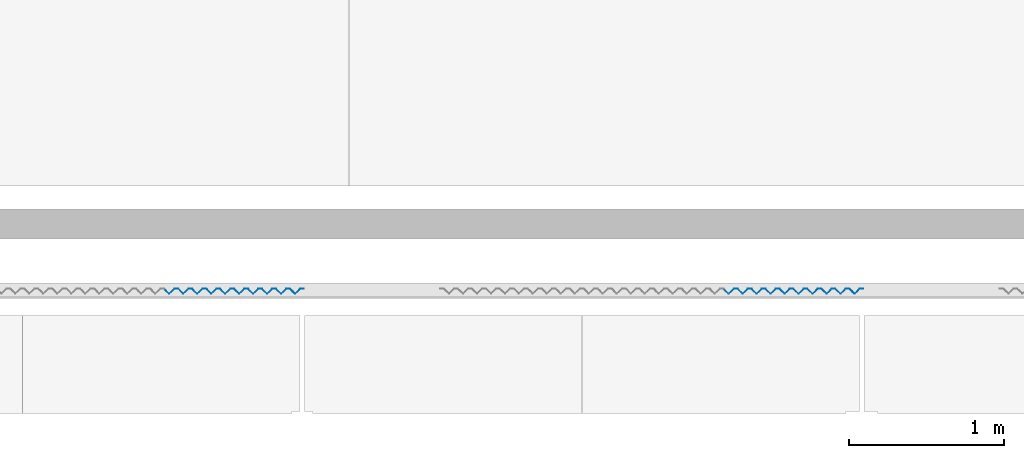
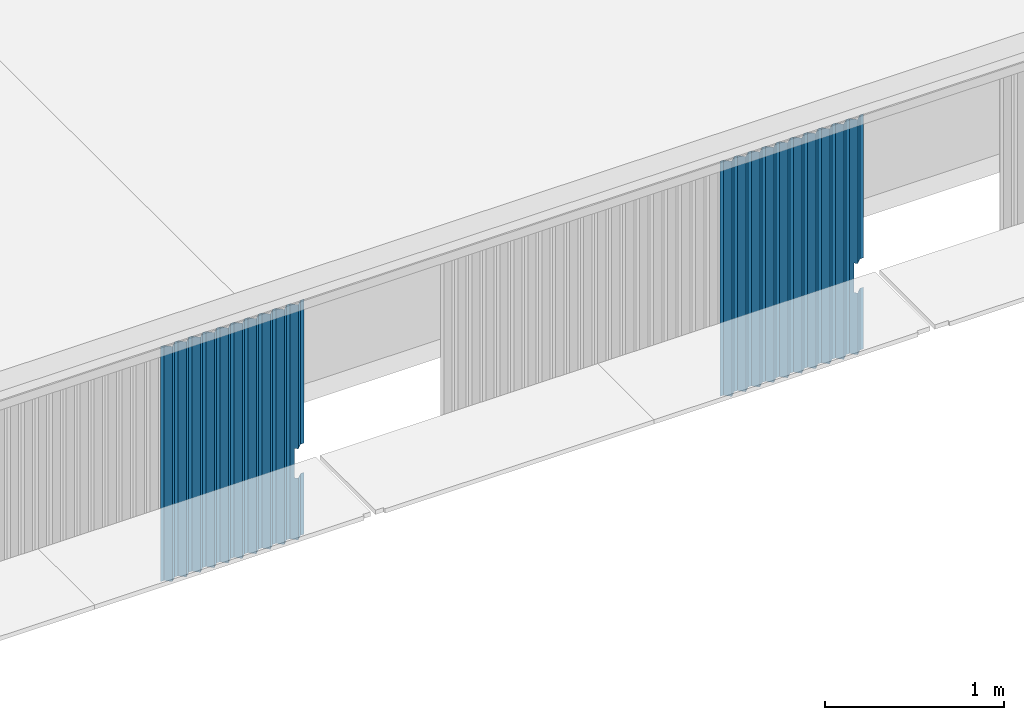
# One storey, part 19 of 37: 2 walls.
"""IFC4X3_ADD2 building model written with IfcOpenShell, lengths in millimetres."""

import ifcopenshell
import ifcopenshell.guid

model = None  # the IFC model being written
_history = None  # IfcOwnerHistory: only IFC2X3 demands one
_inside = {}  # id of a spatial element -> (the spatial element, [elements in it])
_under = {}  # id of a project, library or spatial element -> (it, [spatial elements below it])
_declared = {}  # id of a project -> (the project, [libraries it declares])
_typed = {}  # id of a type object -> (the type object, [elements of that type])
_made_of = {}  # id of a material, layer set ... -> (it, [elements and type objects made of it])


def new_model(schema):
    """Start an empty IFC model of exactly this schema.

    Asked for "IFC4X3", IfcOpenShell would pick the latest addendum, in which some entities
    have other attributes; the version numbers below select the first issue.
    IFC2X3 requires an IfcOwnerHistory on every rooted entity: one is made here for all.
    """
    global model, _history
    if schema == "IFC4X3":
        model = ifcopenshell.file(schema_version=(4, 3, 0, 0))
    else:
        model = ifcopenshell.file(schema=schema)
    _inside.clear()
    _under.clear()
    _declared.clear()
    _typed.clear()
    _made_of.clear()
    _history = None
    if model.schema == "IFC2X3":
        org = make("IfcOrganization", Name="unknown")
        user = make(
            "IfcPersonAndOrganization",
            ThePerson=make("IfcPerson", FamilyName="unknown"),
            TheOrganization=org,
        )
        app = make(
            "IfcApplication",
            ApplicationDeveloper=org,
            Version="unknown",
            ApplicationFullName="unknown",
            ApplicationIdentifier="unknown",
        )
        _history = make(
            "IfcOwnerHistory",
            OwningUser=user,
            OwningApplication=app,
            ChangeAction="ADDED",
            CreationDate=0,
        )
    return model


def make(cls, **values):
    """One entity of the class cls with the attributes given. An attribute that is None is left unset."""
    return model.create_entity(
        cls, **{name: value for name, value in values.items() if value is not None}
    )


def rooted(cls, **values):
    """An entity with a GlobalId (a new one), such as an element, a storey or a relation."""
    return make(cls, GlobalId=ifcopenshell.guid.new(), OwnerHistory=_history, **values)


def si_unit(unit_type, name, prefix=None):
    """IfcSIUnit, for example si_unit("LENGTHUNIT", "METRE", prefix="MILLI")."""
    return make("IfcSIUnit", UnitType=unit_type, Prefix=prefix, Name=name)


def assignment(units):
    """IfcUnitAssignment: the units of a project."""
    return None if units is None else make("IfcUnitAssignment", Units=units)


def point(xyz):
    """IfcCartesianPoint."""
    return None if xyz is None else make("IfcCartesianPoint", Coordinates=xyz)


def direction(xyz):
    """IfcDirection."""
    return None if xyz is None else make("IfcDirection", DirectionRatios=xyz)


def frame(location, z_axis=None, x_axis=None):
    """IfcAxis2Placement3D, a coordinate frame: its origin and axes. An axis left out is left unset."""
    return make(
        "IfcAxis2Placement3D",
        Location=point(location),
        Axis=direction(z_axis),
        RefDirection=direction(x_axis),
    )


def origin_with_axes():
    """The frame at (0, 0, 0) with the z axis (0, 0, 1) and the x axis (1, 0, 0) written out."""
    return frame((0.0, 0.0, 0.0), z_axis=(0.0, 0.0, 1.0), x_axis=(1.0, 0.0, 0.0))


def place(relative_to, where):
    """IfcLocalPlacement: puts the frame where relative to a parent placement (None: the world)."""
    return make(
        "IfcLocalPlacement", PlacementRelTo=relative_to, RelativePlacement=where
    )


def context(
    kind, dimensions, precision=None, world=None, true_north=None, identifier=None
):
    """IfcGeometricRepresentationContext, for example the 3D "Model" context."""
    return make(
        "IfcGeometricRepresentationContext",
        ContextIdentifier=identifier,
        ContextType=kind,
        CoordinateSpaceDimension=dimensions,
        Precision=precision,
        WorldCoordinateSystem=world,
        TrueNorth=true_north,
    )


def subcontext(parent, identifier, kind, view, scale=None):
    """IfcGeometricRepresentationSubContext, for example "Body" below "Model"."""
    return make(
        "IfcGeometricRepresentationSubContext",
        ContextIdentifier=identifier,
        ContextType=kind,
        ParentContext=parent,
        TargetScale=scale,
        TargetView=view,
    )


def project(units=None, contexts=None):
    """IfcProject with its units and contexts."""
    return rooted(
        "IfcProject",
        Name="project",
        RepresentationContexts=contexts,
        UnitsInContext=assignment(units),
    )


def spatial(cls, under=None, at=None, **own):
    """A site, building, storey or space (cls), placed at a placement, below another one or the project."""
    s = rooted(cls, ObjectPlacement=at, **own)
    if under is not None:
        _under.setdefault(under.id(), (under, []))[1].append(s)
    return s


def point_list(points):
    """IfcCartesianPointList2D or 3D."""
    cls = (
        "IfcCartesianPointList2D" if len(points[0]) == 2 else "IfcCartesianPointList3D"
    )
    return make(cls, CoordList=points)


def polygons(points, faces, closed=None, point_numbers=None):
    """IfcPolygonalFaceSet: a face is its outer loop, then its inner loops; points numbered from 1."""
    made = []
    for loops in faces:
        if len(loops) == 1:
            made.append(make("IfcIndexedPolygonalFace", CoordIndex=loops[0]))
        else:
            made.append(
                make(
                    "IfcIndexedPolygonalFaceWithVoids",
                    CoordIndex=loops[0],
                    InnerCoordIndices=loops[1:],
                )
            )
    return make(
        "IfcPolygonalFaceSet",
        Coordinates=point_list(points),
        Closed=closed,
        Faces=made,
        PnIndex=point_numbers,
    )


def shape(context_of_items, identifier, shape_type, items):
    """IfcShapeRepresentation: the items that make up one representation, for example the "Body"."""
    return make(
        "IfcShapeRepresentation",
        ContextOfItems=context_of_items,
        RepresentationIdentifier=identifier,
        RepresentationType=shape_type,
        Items=items,
    )


def made_of(thing, what):
    """Note that an element or type object is made of a material, layer set ...; save() writes the relation."""
    if what is not None:
        _made_of.setdefault(what.id(), (what, []))[1].append(thing)
    return thing


def element(
    cls,
    number,
    at=None,
    inside=None,
    cuts=None,
    type_object=None,
    material=None,
    context=None,
    identifier="Body",
    shape_type=None,
    held_by="IfcProductDefinitionShape",
    body=None,
    shapes=None,
    **own,
):
    """One element of the class cls, such as IfcWall. Its Tag is "e" and its number.

    at: its placement. inside: the storey or other place that contains it. cuts: it is an
    opening in that element (IfcRelVoidsElement). A single representation is given by context,
    identifier, shape_type and body (its items); several are given by shapes. held_by: the class
    of the entity that holds the representations. save() writes the other relations.
    """
    e = rooted(cls, Tag="e%d" % number, ObjectPlacement=at, **own)
    if body is not None:
        shapes = [shape(context, identifier, shape_type, body)]
    if shapes is not None:
        e.Representation = make(held_by, Representations=shapes)
    if inside is not None:
        _inside.setdefault(inside.id(), (inside, []))[1].append(e)
    if cuts is not None:
        rooted(
            "IfcRelVoidsElement", RelatingBuildingElement=cuts, RelatedOpeningElement=e
        )
    if type_object is not None:
        _typed.setdefault(type_object.id(), (type_object, []))[1].append(e)
    return made_of(e, material)


def aggregate(whole, parts):
    """IfcRelAggregates: a whole, such as a stair, and the parts it consists of."""
    return rooted("IfcRelAggregates", RelatingObject=whole, RelatedObjects=parts)


def save(model, path):
    """Write the relations noted so far, then the file.

    IfcRelAggregates (storeys below a building ...), IfcRelContainedInSpatialStructure (elements
    in a storey), IfcRelDefinesByType, IfcRelAssociatesMaterial and IfcRelDeclares: one each for
    every whole, place, type object, material and project.
    """
    for whole, parts in _under.values():
        aggregate(whole, parts)
    for where, things in _inside.values():
        rooted(
            "IfcRelContainedInSpatialStructure",
            RelatedElements=things,
            RelatingStructure=where,
        )
    for kind, things in _typed.values():
        rooted("IfcRelDefinesByType", RelatedObjects=things, RelatingType=kind)
    for what, things in _made_of.values():
        rooted("IfcRelAssociatesMaterial", RelatedObjects=things, RelatingMaterial=what)
    for by, libraries in _declared.values():
        rooted("IfcRelDeclares", RelatingContext=by, RelatedDefinitions=libraries)
    model.write(path)


model = new_model("IFC4X3_ADD2")

# Units and contexts
model_context = context("Model", 3, precision=1e-05, world=origin_with_axes(), true_north=direction((0.0, 1.0)))
body_context = subcontext(model_context, "Body", "Model", "MODEL_VIEW")
ifc_project = project(units=[si_unit("LENGTHUNIT", "METRE", prefix="MILLI"), si_unit("AREAUNIT", "SQUARE_METRE"), si_unit("VOLUMEUNIT", "CUBIC_METRE"), si_unit("PLANEANGLEUNIT", "RADIAN"), si_unit("TIMEUNIT", "SECOND"), si_unit("MASSUNIT", "GRAM")], contexts=[model_context])

# Site, building, storey
site_placement = place(None, origin_with_axes())
site = spatial("IfcSite", under=ifc_project, at=site_placement, Name="Site", CompositionType="ELEMENT")
building_placement = place(site_placement, origin_with_axes())
building = spatial("IfcBuilding", under=site, at=building_placement, Name="IFC Building Story")
storey_placement = place(building_placement, frame((0.0, 0.0, 14400.0), z_axis=(0.0, 0.0, 1.0), x_axis=(1.0, 0.0, 0.0)))
storey = spatial("IfcBuildingStorey", under=building, at=storey_placement, Name="040", Elevation=14400.0)

# Walls
wall_1_placement = place(storey_placement, frame((0.0, 0.0, -14400.0), z_axis=(0.0, 0.0, 1.0), x_axis=(1.0, 0.0, 0.0)))
element("IfcWall", 1, at=wall_1_placement, inside=storey, Name="BB_07.10_Gevelbekleding_PuntProfiel, 900 mm, console rechts_GMO:900 x 1600 mm", ObjectType="BB_07.10_Gevelbekleding_PuntProfiel, 900 mm, console rechts_GMO:900 x 1600 mm", PredefinedType="NOTDEFINED", context=body_context, shape_type="Tessellation", body=[
    polygons([(-36360.00000000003, -434.9999999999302, 14060.0), (-36360.00000000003, -433.5857864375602, 14060.0), (-36344.99999999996, -448.585786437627, 14060.0), (-36311.41421356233, -414.9999999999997, 14060.0), (-36288.58578643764, -414.9999999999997, 14060.0), (-36289.00000000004, -415.9999999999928, 14060.0), (-36310.99999999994, -415.9999999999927, 14060.0), (-36344.99999999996, -449.9999999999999, 14060.0), (-36360.00000000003, -434.9999999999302, 13860.0), (-36360.00000000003, -433.5857864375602, 13860.0), (-36344.99999999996, -449.9999999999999, 13860.0), (-36310.99999999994, -415.9999999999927, 13860.0), (-36289.00000000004, -415.9999999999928, 13860.0), (-36288.58578643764, -414.9999999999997, 13860.0), (-36311.41421356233, -414.9999999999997, 13860.0), (-36344.99999999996, -448.585786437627, 13860.0), (-37121.00000000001, -415.9999999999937, 15040.0), (-37099.00000000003, -415.9999999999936, 15040.0), (-37065.00000000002, -449.9999999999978, 15040.0), (-37031.00000000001, -415.9999999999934, 15040.0), (-37009.00000000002, -415.9999999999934, 15040.0), (-36975.00000000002, -449.9999999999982, 15040.0), (-36941.00000000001, -415.9999999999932, 15040.0), (-36919.00000000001, -415.9999999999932, 15040.0), (-36885.00000000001, -449.9999999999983, 15040.0), (-36850.99999999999, -415.9999999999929, 15040.0), (-36829.0, -415.9999999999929, 15040.0), (-36795.0, -449.9999999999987, 15040.0), (-36760.99999999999, -415.9999999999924, 15040.0), (-36738.99999999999, -415.9999999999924, 15040.0), (-36704.99999999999, -449.9999999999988, 15040.0), (-36670.99999999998, -415.9999999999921, 15040.0), (-36648.99999999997, -415.9999999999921, 15040.0), (-36614.99999999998, -449.9999999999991, 15040.0), (-36580.99999999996, -415.9999999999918, 15040.0), (-36558.99999999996, -415.9999999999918, 15040.0), (-36524.99999999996, -449.9999999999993, 15040.0), (-36490.99999999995, -415.9999999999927, 15040.0), (-36468.99999999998, -415.9999999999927, 15040.0), (-36434.99999999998, -449.9999999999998, 15040.0), (-36400.99999999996, -415.9999999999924, 15040.0), (-36378.99999999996, -415.9999999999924, 15040.0), (-36344.99999999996, -449.9999999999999, 15040.0), (-36310.99999999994, -415.9999999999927, 15040.0), (-36289.00000000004, -415.9999999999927, 15040.0), (-36288.58578643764, -414.9999999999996, 15040.0), (-36311.41421356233, -414.9999999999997, 15040.0), (-36344.99999999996, -448.585786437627, 15040.0), (-36378.58578643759, -414.9999999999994, 15040.0), (-36401.41421356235, -414.9999999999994, 15040.0), (-36434.99999999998, -448.5857864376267, 15040.0), (-36468.58578643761, -414.9999999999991, 15040.0), (-36491.41421356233, -414.9999999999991, 15040.0), (-36524.99999999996, -448.5857864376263, 15040.0), (-36558.58578643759, -414.9999999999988, 15040.0), (-36581.41421356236, -414.9999999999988, 15040.0), (-36614.99999999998, -448.5857864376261, 15040.0), (-36648.5857864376, -414.9999999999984, 15040.0), (-36671.41421356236, -414.9999999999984, 15040.0), (-36704.99999999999, -448.5857864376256, 15040.0), (-36738.58578643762, -414.9999999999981, 15040.0), (-36761.41421356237, -414.9999999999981, 15040.0), (-36795.0, -448.5857864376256, 15040.0), (-36828.58578643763, -414.999999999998, 15040.0), (-36851.41421356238, -414.999999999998, 15040.0), (-36885.00000000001, -448.5857864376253, 15040.0), (-36918.58578643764, -414.9999999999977, 15040.0), (-36941.41421356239, -414.9999999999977, 15040.0), (-36975.00000000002, -448.5857864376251, 15040.0), (-37008.58578643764, -414.9999999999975, 15040.0), (-37031.4142135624, -414.9999999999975, 15040.0), (-37065.00000000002, -448.5857864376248, 15040.0), (-37098.58578643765, -414.9999999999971, 15040.0), (-37121.4142135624, -414.9999999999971, 15040.0), (-37155.00000000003, -448.5857864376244, 15040.0), (-37188.58578643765, -414.9999999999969, 15040.0), (-37211.4142135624, -414.9999999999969, 15040.0), (-37211.00000000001, -415.9999999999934, 15040.0), (-37189.00000000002, -415.9999999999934, 15040.0), (-37155.00000000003, -449.9999999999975, 15040.0), (-37121.00000000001, -415.9999999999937, 13440.0), (-37155.00000000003, -449.9999999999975, 13440.0), (-37189.00000000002, -415.9999999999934, 13440.0), (-37211.00000000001, -415.9999999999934, 13440.0), (-37211.4142135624, -414.9999999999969, 13440.0), (-37188.58578643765, -414.9999999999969, 13440.0), (-37155.00000000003, -448.5857864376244, 13440.0), (-37121.4142135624, -414.9999999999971, 13440.0), (-37098.58578643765, -414.9999999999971, 13440.0), (-37065.00000000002, -448.5857864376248, 13440.0), (-37031.4142135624, -414.9999999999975, 13440.0), (-37008.58578643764, -414.9999999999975, 13440.0), (-36975.00000000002, -448.5857864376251, 13440.0), (-36941.41421356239, -414.9999999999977, 13440.0), (-36918.58578643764, -414.9999999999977, 13440.0), (-36885.00000000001, -448.5857864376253, 13440.0), (-36851.41421356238, -414.999999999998, 13440.0), (-36828.58578643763, -414.999999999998, 13440.0), (-36795.0, -448.5857864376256, 13440.0), (-36761.41421356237, -414.9999999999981, 13440.0), (-36738.58578643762, -414.9999999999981, 13440.0), (-36704.99999999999, -448.5857864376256, 13440.0), (-36671.41421356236, -414.9999999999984, 13440.0), (-36648.5857864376, -414.9999999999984, 13440.0), (-36614.99999999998, -448.5857864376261, 13440.0), (-36581.41421356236, -414.9999999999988, 13440.0), (-36558.58578643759, -414.9999999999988, 13440.0), (-36524.99999999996, -448.5857864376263, 13440.0), (-36491.41421356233, -414.9999999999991, 13440.0), (-36468.58578643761, -414.9999999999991, 13440.0), (-36434.99999999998, -448.5857864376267, 13440.0), (-36401.41421356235, -414.9999999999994, 13440.0), (-36378.58578643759, -414.9999999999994, 13440.0), (-36344.99999999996, -448.585786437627, 13440.0), (-36311.41421356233, -414.9999999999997, 13440.0), (-36288.58578643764, -414.9999999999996, 13440.0), (-36289.00000000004, -415.9999999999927, 13440.0), (-36310.99999999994, -415.9999999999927, 13440.0), (-36344.99999999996, -449.9999999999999, 13440.0), (-36378.99999999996, -415.9999999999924, 13440.0), (-36400.99999999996, -415.9999999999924, 13440.0), (-36434.99999999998, -449.9999999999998, 13440.0), (-36468.99999999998, -415.9999999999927, 13440.0), (-36490.99999999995, -415.9999999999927, 13440.0), (-36524.99999999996, -449.9999999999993, 13440.0), (-36558.99999999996, -415.9999999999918, 13440.0), (-36580.99999999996, -415.9999999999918, 13440.0), (-36614.99999999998, -449.9999999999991, 13440.0), (-36648.99999999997, -415.9999999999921, 13440.0), (-36670.99999999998, -415.9999999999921, 13440.0), (-36704.99999999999, -449.9999999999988, 13440.0), (-36738.99999999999, -415.9999999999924, 13440.0), (-36760.99999999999, -415.9999999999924, 13440.0), (-36795.0, -449.9999999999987, 13440.0), (-36829.0, -415.9999999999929, 13440.0), (-36850.99999999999, -415.9999999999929, 13440.0), (-36885.00000000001, -449.9999999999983, 13440.0), (-36919.00000000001, -415.9999999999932, 13440.0), (-36941.00000000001, -415.9999999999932, 13440.0), (-36975.00000000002, -449.9999999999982, 13440.0), (-37009.00000000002, -415.9999999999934, 13440.0), (-37031.00000000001, -415.9999999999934, 13440.0), (-37065.00000000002, -449.9999999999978, 13440.0), (-37099.00000000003, -415.9999999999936, 13440.0)], [[[7, 8, 3]], [[7, 3, 4]], [[4, 5, 6]], [[4, 6, 7]], [[8, 1, 2]], [[8, 2, 3]], [[2, 1, 9, 10]], [[12, 13, 14]], [[12, 14, 15]], [[16, 10, 9]], [[16, 9, 11]], [[11, 12, 15]], [[11, 15, 16]], [[44, 45, 46]], [[44, 46, 47]], [[48, 49, 42]], [[48, 42, 43]], [[43, 44, 47]], [[43, 47, 48]], [[49, 50, 41]], [[49, 41, 42]], [[51, 52, 39]], [[51, 39, 40]], [[40, 41, 50]], [[40, 50, 51]], [[52, 53, 38]], [[52, 38, 39]], [[54, 55, 36]], [[54, 36, 37]], [[37, 38, 53]], [[37, 53, 54]], [[55, 56, 35]], [[55, 35, 36]], [[57, 58, 33]], [[57, 33, 34]], [[34, 35, 56]], [[34, 56, 57]], [[58, 59, 32]], [[58, 32, 33]], [[60, 61, 30]], [[60, 30, 31]], [[31, 32, 59]], [[31, 59, 60]], [[61, 62, 29]], [[61, 29, 30]], [[63, 64, 27]], [[63, 27, 28]], [[28, 29, 62]], [[28, 62, 63]], [[64, 65, 26]], [[64, 26, 27]], [[66, 67, 24]], [[66, 24, 25]], [[25, 26, 65]], [[25, 65, 66]], [[67, 68, 23]], [[67, 23, 24]], [[69, 70, 21]], [[69, 21, 22]], [[22, 23, 68]], [[22, 68, 69]], [[70, 71, 20]], [[70, 20, 21]], [[72, 73, 18]], [[72, 18, 19]], [[19, 20, 71]], [[19, 71, 72]], [[73, 74, 17]], [[73, 17, 18]], [[79, 80, 75]], [[79, 75, 76]], [[76, 77, 78]], [[76, 78, 79]], [[80, 17, 74]], [[80, 74, 75]], [[83, 84, 85]], [[83, 85, 86]], [[87, 88, 81]], [[87, 81, 82]], [[82, 83, 86]], [[82, 86, 87]], [[118, 119, 114]], [[118, 114, 115]], [[115, 116, 117]], [[115, 117, 118]], [[121, 122, 111]], [[121, 111, 112]], [[112, 113, 120]], [[112, 120, 121]], [[113, 114, 119]], [[113, 119, 120]], [[124, 125, 108]], [[124, 108, 109]], [[109, 110, 123]], [[109, 123, 124]], [[110, 111, 122]], [[110, 122, 123]], [[127, 128, 105]], [[127, 105, 106]], [[106, 107, 126]], [[106, 126, 127]], [[107, 108, 125]], [[107, 125, 126]], [[130, 131, 102]], [[130, 102, 103]], [[103, 104, 129]], [[103, 129, 130]], [[104, 105, 128]], [[104, 128, 129]], [[133, 134, 99]], [[133, 99, 100]], [[100, 101, 132]], [[100, 132, 133]], [[101, 102, 131]], [[101, 131, 132]], [[136, 137, 96]], [[136, 96, 97]], [[97, 98, 135]], [[97, 135, 136]], [[98, 99, 134]], [[98, 134, 135]], [[139, 140, 93]], [[139, 93, 94]], [[94, 95, 138]], [[94, 138, 139]], [[95, 96, 137]], [[95, 137, 138]], [[142, 143, 90]], [[142, 90, 91]], [[91, 92, 141]], [[91, 141, 142]], [[92, 93, 140]], [[92, 140, 141]], [[144, 81, 88]], [[144, 88, 89]], [[89, 90, 143]], [[89, 143, 144]], [[18, 17, 81, 144]], [[19, 18, 144, 143]], [[20, 19, 143, 142]], [[21, 20, 142, 141]], [[22, 21, 141, 140]], [[23, 22, 140, 139]], [[24, 23, 139, 138]], [[25, 24, 138, 137]], [[26, 25, 137, 136]], [[27, 26, 136, 135]], [[28, 27, 135, 134]], [[29, 28, 134, 133]], [[30, 29, 133, 132]], [[31, 30, 132, 131]], [[32, 31, 131, 130]], [[33, 32, 130, 129]], [[34, 33, 129, 128]], [[35, 34, 128, 127]], [[36, 35, 127, 126]], [[37, 36, 126, 125]], [[38, 37, 125, 124]], [[54, 53, 109, 108]], [[55, 54, 108, 107]], [[56, 55, 107, 106]], [[57, 56, 106, 105]], [[58, 57, 105, 104]], [[59, 58, 104, 103]], [[60, 59, 103, 102]], [[61, 60, 102, 101]], [[62, 61, 101, 100]], [[63, 62, 100, 99]], [[64, 63, 99, 98]], [[65, 64, 98, 97]], [[66, 65, 97, 96]], [[67, 66, 96, 95]], [[68, 67, 95, 94]], [[69, 68, 94, 93]], [[70, 69, 93, 92]], [[71, 70, 92, 91]], [[72, 71, 91, 90]], [[73, 72, 90, 89]], [[74, 73, 89, 88]], [[80, 79, 83, 82]], [[17, 80, 82, 81]], [[39, 38, 124, 123]], [[40, 39, 123, 122]], [[41, 40, 122, 121]], [[42, 41, 121, 120]], [[1, 8, 43]], [[1, 43, 42]], [[42, 9, 1]], [[42, 120, 9]], [[120, 119, 11]], [[120, 11, 9]], [[44, 43, 8, 7]], [[45, 44, 7, 6]], [[47, 46, 5, 4]], [[48, 47, 4, 3]], [[10, 16, 114]], [[10, 114, 113]], [[113, 2, 10]], [[2, 113, 49]], [[49, 48, 2]], [[48, 3, 2]], [[50, 49, 113, 112]], [[51, 50, 112, 111]], [[52, 51, 111, 110]], [[53, 52, 110, 109]], [[75, 74, 88, 87]], [[76, 75, 87, 86]], [[46, 45, 6, 5]], [[77, 76, 86, 85]], [[78, 77, 85, 84]], [[79, 78, 84, 83]], [[117, 116, 14, 13]], [[115, 114, 16, 15]], [[116, 115, 15, 14]], [[118, 117, 13, 12]], [[119, 118, 12, 11]]]),
])
wall_2_placement = place(storey_placement, frame((0.0, 0.0, -14400.0), z_axis=(0.0, 0.0, 1.0), x_axis=(1.0, 0.0, 0.0)))
element("IfcWall", 2, at=wall_2_placement, inside=storey, Name="BB_07.10_Gevelbekleding_PuntProfiel, 900 mm, console rechts_GMO:900 x 1600 mm", ObjectType="BB_07.10_Gevelbekleding_PuntProfiel, 900 mm, console rechts_GMO:900 x 1600 mm", PredefinedType="NOTDEFINED", context=body_context, shape_type="Tessellation", body=[
    polygons([(-32760.00000000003, -434.9999999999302, 14060.0), (-32760.00000000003, -433.5857864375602, 14060.0), (-32744.99999999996, -448.585786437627, 14060.0), (-32711.41421356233, -414.9999999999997, 14060.0), (-32688.58578643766, -414.9999999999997, 14060.0), (-32689.00000000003, -415.9999999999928, 14060.0), (-32710.99999999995, -415.9999999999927, 14060.0), (-32744.99999999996, -449.9999999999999, 14060.0), (-32760.00000000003, -434.9999999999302, 13860.0), (-32760.00000000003, -433.5857864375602, 13860.0), (-32744.99999999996, -449.9999999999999, 13860.0), (-32710.99999999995, -415.9999999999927, 13860.0), (-32689.00000000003, -415.9999999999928, 13860.0), (-32688.58578643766, -414.9999999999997, 13860.0), (-32711.41421356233, -414.9999999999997, 13860.0), (-32744.99999999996, -448.585786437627, 13860.0), (-33521.00000000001, -415.9999999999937, 15040.0), (-33499.00000000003, -415.9999999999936, 15040.0), (-33465.00000000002, -449.9999999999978, 15040.0), (-33431.00000000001, -415.9999999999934, 15040.0), (-33409.00000000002, -415.9999999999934, 15040.0), (-33375.00000000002, -449.9999999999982, 15040.0), (-33341.00000000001, -415.9999999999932, 15040.0), (-33319.00000000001, -415.9999999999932, 15040.0), (-33285.00000000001, -449.9999999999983, 15040.0), (-33251.00000000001, -415.9999999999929, 15040.0), (-33229.0, -415.9999999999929, 15040.0), (-33195.0, -449.9999999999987, 15040.0), (-33160.99999999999, -415.9999999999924, 15040.0), (-33138.99999999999, -415.9999999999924, 15040.0), (-33104.99999999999, -449.9999999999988, 15040.0), (-33070.99999999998, -415.9999999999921, 15040.0), (-33048.99999999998, -415.9999999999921, 15040.0), (-33014.99999999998, -449.9999999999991, 15040.0), (-32980.99999999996, -415.9999999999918, 15040.0), (-32958.99999999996, -415.9999999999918, 15040.0), (-32924.99999999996, -449.9999999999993, 15040.0), (-32890.99999999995, -415.9999999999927, 15040.0), (-32868.99999999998, -415.9999999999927, 15040.0), (-32834.99999999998, -449.9999999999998, 15040.0), (-32800.99999999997, -415.9999999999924, 15040.0), (-32778.99999999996, -415.9999999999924, 15040.0), (-32744.99999999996, -449.9999999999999, 15040.0), (-32710.99999999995, -415.9999999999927, 15040.0), (-32689.00000000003, -415.9999999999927, 15040.0), (-32688.58578643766, -414.9999999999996, 15040.0), (-32711.41421356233, -414.9999999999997, 15040.0), (-32744.99999999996, -448.585786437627, 15040.0), (-32778.58578643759, -414.9999999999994, 15040.0), (-32801.41421356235, -414.9999999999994, 15040.0), (-32834.99999999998, -448.5857864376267, 15040.0), (-32868.58578643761, -414.9999999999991, 15040.0), (-32891.41421356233, -414.9999999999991, 15040.0), (-32924.99999999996, -448.5857864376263, 15040.0), (-32958.58578643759, -414.9999999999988, 15040.0), (-32981.41421356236, -414.9999999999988, 15040.0), (-33014.99999999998, -448.5857864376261, 15040.0), (-33048.58578643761, -414.9999999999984, 15040.0), (-33071.41421356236, -414.9999999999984, 15040.0), (-33104.99999999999, -448.5857864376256, 15040.0), (-33138.58578643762, -414.9999999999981, 15040.0), (-33161.41421356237, -414.9999999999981, 15040.0), (-33195.0, -448.5857864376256, 15040.0), (-33228.58578643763, -414.999999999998, 15040.0), (-33251.41421356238, -414.999999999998, 15040.0), (-33285.00000000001, -448.5857864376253, 15040.0), (-33318.58578643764, -414.9999999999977, 15040.0), (-33341.41421356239, -414.9999999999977, 15040.0), (-33375.00000000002, -448.5857864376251, 15040.0), (-33408.58578643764, -414.9999999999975, 15040.0), (-33431.4142135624, -414.9999999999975, 15040.0), (-33465.00000000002, -448.5857864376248, 15040.0), (-33498.58578643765, -414.9999999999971, 15040.0), (-33521.41421356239, -414.9999999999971, 15040.0), (-33555.00000000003, -448.5857864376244, 15040.0), (-33588.58578643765, -414.9999999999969, 15040.0), (-33611.4142135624, -414.9999999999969, 15040.0), (-33611.00000000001, -415.9999999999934, 15040.0), (-33589.00000000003, -415.9999999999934, 15040.0), (-33555.00000000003, -449.9999999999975, 15040.0), (-33521.00000000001, -415.9999999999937, 13440.0), (-33555.00000000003, -449.9999999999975, 13440.0), (-33589.00000000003, -415.9999999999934, 13440.0), (-33611.00000000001, -415.9999999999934, 13440.0), (-33611.4142135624, -414.9999999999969, 13440.0), (-33588.58578643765, -414.9999999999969, 13440.0), (-33555.00000000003, -448.5857864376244, 13440.0), (-33521.41421356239, -414.9999999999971, 13440.0), (-33498.58578643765, -414.9999999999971, 13440.0), (-33465.00000000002, -448.5857864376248, 13440.0), (-33431.4142135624, -414.9999999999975, 13440.0), (-33408.58578643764, -414.9999999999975, 13440.0), (-33375.00000000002, -448.5857864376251, 13440.0), (-33341.41421356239, -414.9999999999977, 13440.0), (-33318.58578643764, -414.9999999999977, 13440.0), (-33285.00000000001, -448.5857864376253, 13440.0), (-33251.41421356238, -414.999999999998, 13440.0), (-33228.58578643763, -414.999999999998, 13440.0), (-33195.0, -448.5857864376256, 13440.0), (-33161.41421356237, -414.9999999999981, 13440.0), (-33138.58578643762, -414.9999999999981, 13440.0), (-33104.99999999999, -448.5857864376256, 13440.0), (-33071.41421356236, -414.9999999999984, 13440.0), (-33048.58578643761, -414.9999999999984, 13440.0), (-33014.99999999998, -448.5857864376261, 13440.0), (-32981.41421356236, -414.9999999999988, 13440.0), (-32958.58578643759, -414.9999999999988, 13440.0), (-32924.99999999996, -448.5857864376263, 13440.0), (-32891.41421356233, -414.9999999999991, 13440.0), (-32868.58578643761, -414.9999999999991, 13440.0), (-32834.99999999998, -448.5857864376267, 13440.0), (-32801.41421356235, -414.9999999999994, 13440.0), (-32778.58578643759, -414.9999999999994, 13440.0), (-32744.99999999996, -448.585786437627, 13440.0), (-32711.41421356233, -414.9999999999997, 13440.0), (-32688.58578643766, -414.9999999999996, 13440.0), (-32689.00000000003, -415.9999999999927, 13440.0), (-32710.99999999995, -415.9999999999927, 13440.0), (-32744.99999999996, -449.9999999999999, 13440.0), (-32778.99999999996, -415.9999999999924, 13440.0), (-32800.99999999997, -415.9999999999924, 13440.0), (-32834.99999999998, -449.9999999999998, 13440.0), (-32868.99999999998, -415.9999999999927, 13440.0), (-32890.99999999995, -415.9999999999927, 13440.0), (-32924.99999999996, -449.9999999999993, 13440.0), (-32958.99999999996, -415.9999999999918, 13440.0), (-32980.99999999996, -415.9999999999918, 13440.0), (-33014.99999999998, -449.9999999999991, 13440.0), (-33048.99999999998, -415.9999999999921, 13440.0), (-33070.99999999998, -415.9999999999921, 13440.0), (-33104.99999999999, -449.9999999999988, 13440.0), (-33138.99999999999, -415.9999999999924, 13440.0), (-33160.99999999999, -415.9999999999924, 13440.0), (-33195.0, -449.9999999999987, 13440.0), (-33229.0, -415.9999999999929, 13440.0), (-33251.00000000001, -415.9999999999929, 13440.0), (-33285.00000000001, -449.9999999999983, 13440.0), (-33319.00000000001, -415.9999999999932, 13440.0), (-33341.00000000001, -415.9999999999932, 13440.0), (-33375.00000000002, -449.9999999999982, 13440.0), (-33409.00000000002, -415.9999999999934, 13440.0), (-33431.00000000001, -415.9999999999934, 13440.0), (-33465.00000000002, -449.9999999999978, 13440.0), (-33499.00000000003, -415.9999999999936, 13440.0)], [[[7, 8, 3]], [[7, 3, 4]], [[4, 5, 6]], [[4, 6, 7]], [[8, 1, 2]], [[8, 2, 3]], [[2, 1, 9, 10]], [[12, 13, 14]], [[12, 14, 15]], [[16, 10, 9]], [[16, 9, 11]], [[11, 12, 15]], [[11, 15, 16]], [[44, 45, 46]], [[44, 46, 47]], [[48, 49, 42]], [[48, 42, 43]], [[43, 44, 47]], [[43, 47, 48]], [[49, 50, 41]], [[49, 41, 42]], [[51, 52, 39]], [[51, 39, 40]], [[40, 41, 50]], [[40, 50, 51]], [[52, 53, 38]], [[52, 38, 39]], [[54, 55, 36]], [[54, 36, 37]], [[37, 38, 53]], [[37, 53, 54]], [[55, 56, 35]], [[55, 35, 36]], [[57, 58, 33]], [[57, 33, 34]], [[34, 35, 56]], [[34, 56, 57]], [[58, 59, 32]], [[58, 32, 33]], [[60, 61, 30]], [[60, 30, 31]], [[31, 32, 59]], [[31, 59, 60]], [[61, 62, 29]], [[61, 29, 30]], [[63, 64, 27]], [[63, 27, 28]], [[28, 29, 62]], [[28, 62, 63]], [[64, 65, 26]], [[64, 26, 27]], [[66, 67, 24]], [[66, 24, 25]], [[25, 26, 65]], [[25, 65, 66]], [[67, 68, 23]], [[67, 23, 24]], [[69, 70, 21]], [[69, 21, 22]], [[22, 23, 68]], [[22, 68, 69]], [[70, 71, 20]], [[70, 20, 21]], [[72, 73, 18]], [[72, 18, 19]], [[19, 20, 71]], [[19, 71, 72]], [[73, 74, 17]], [[73, 17, 18]], [[79, 80, 75]], [[79, 75, 76]], [[76, 77, 78]], [[76, 78, 79]], [[80, 17, 74]], [[80, 74, 75]], [[83, 84, 85]], [[83, 85, 86]], [[87, 88, 81]], [[87, 81, 82]], [[82, 83, 86]], [[82, 86, 87]], [[118, 119, 114]], [[118, 114, 115]], [[115, 116, 117]], [[115, 117, 118]], [[121, 122, 111]], [[121, 111, 112]], [[112, 113, 120]], [[112, 120, 121]], [[113, 114, 119]], [[113, 119, 120]], [[124, 125, 108]], [[124, 108, 109]], [[109, 110, 123]], [[109, 123, 124]], [[110, 111, 122]], [[110, 122, 123]], [[127, 128, 105]], [[127, 105, 106]], [[106, 107, 126]], [[106, 126, 127]], [[107, 108, 125]], [[107, 125, 126]], [[130, 131, 102]], [[130, 102, 103]], [[103, 104, 129]], [[103, 129, 130]], [[104, 105, 128]], [[104, 128, 129]], [[133, 134, 99]], [[133, 99, 100]], [[100, 101, 132]], [[100, 132, 133]], [[101, 102, 131]], [[101, 131, 132]], [[136, 137, 96]], [[136, 96, 97]], [[97, 98, 135]], [[97, 135, 136]], [[98, 99, 134]], [[98, 134, 135]], [[139, 140, 93]], [[139, 93, 94]], [[94, 95, 138]], [[94, 138, 139]], [[95, 96, 137]], [[95, 137, 138]], [[142, 143, 90]], [[142, 90, 91]], [[91, 92, 141]], [[91, 141, 142]], [[92, 93, 140]], [[92, 140, 141]], [[144, 81, 88]], [[144, 88, 89]], [[89, 90, 143]], [[89, 143, 144]], [[18, 17, 81, 144]], [[19, 18, 144, 143]], [[20, 19, 143, 142]], [[21, 20, 142, 141]], [[22, 21, 141, 140]], [[23, 22, 140, 139]], [[24, 23, 139, 138]], [[25, 24, 138, 137]], [[26, 25, 137, 136]], [[27, 26, 136, 135]], [[28, 27, 135, 134]], [[29, 28, 134, 133]], [[30, 29, 133, 132]], [[31, 30, 132, 131]], [[32, 31, 131, 130]], [[33, 32, 130, 129]], [[34, 33, 129, 128]], [[35, 34, 128, 127]], [[36, 35, 127, 126]], [[37, 36, 126, 125]], [[38, 37, 125, 124]], [[54, 53, 109, 108]], [[55, 54, 108, 107]], [[56, 55, 107, 106]], [[57, 56, 106, 105]], [[58, 57, 105, 104]], [[59, 58, 104, 103]], [[60, 59, 103, 102]], [[61, 60, 102, 101]], [[62, 61, 101, 100]], [[63, 62, 100, 99]], [[64, 63, 99, 98]], [[65, 64, 98, 97]], [[66, 65, 97, 96]], [[67, 66, 96, 95]], [[68, 67, 95, 94]], [[69, 68, 94, 93]], [[70, 69, 93, 92]], [[71, 70, 92, 91]], [[72, 71, 91, 90]], [[73, 72, 90, 89]], [[74, 73, 89, 88]], [[80, 79, 83, 82]], [[17, 80, 82, 81]], [[39, 38, 124, 123]], [[40, 39, 123, 122]], [[41, 40, 122, 121]], [[42, 41, 121, 120]], [[1, 8, 43]], [[1, 43, 42]], [[42, 9, 1]], [[42, 120, 9]], [[120, 119, 11]], [[120, 11, 9]], [[44, 43, 8, 7]], [[45, 44, 7, 6]], [[47, 46, 5, 4]], [[48, 47, 4, 3]], [[10, 16, 114]], [[10, 114, 113]], [[113, 2, 10]], [[2, 113, 49]], [[49, 48, 2]], [[48, 3, 2]], [[50, 49, 113, 112]], [[51, 50, 112, 111]], [[52, 51, 111, 110]], [[53, 52, 110, 109]], [[75, 74, 88, 87]], [[76, 75, 87, 86]], [[46, 45, 6, 5]], [[77, 76, 86, 85]], [[78, 77, 85, 84]], [[79, 78, 84, 83]], [[117, 116, 14, 13]], [[115, 114, 16, 15]], [[116, 115, 15, 14]], [[118, 117, 13, 12]], [[119, 118, 12, 11]]]),
])

save(model, "model.ifc")
